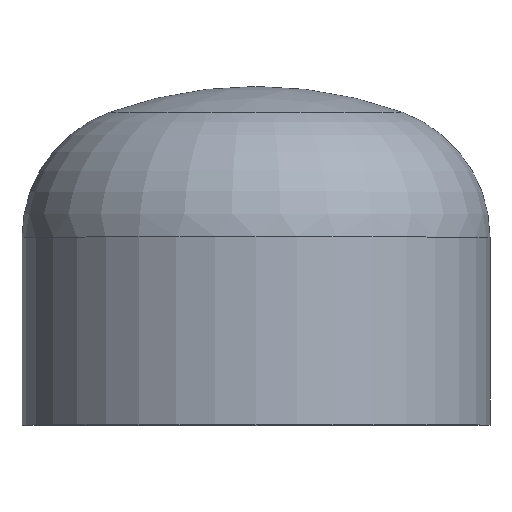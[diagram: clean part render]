
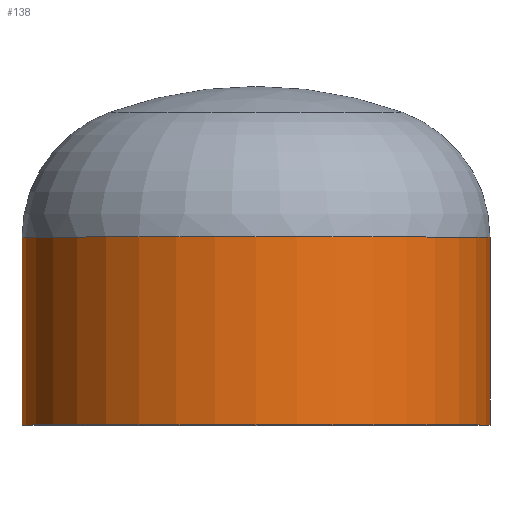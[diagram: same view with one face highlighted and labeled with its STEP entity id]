
A CAD part, top view. The second image highlights one B-rep face of the part: STEP entity #138.
In plain terms, the highlighted cylindrical face has radius 161.95 mm (diameter 323.9 mm), a partial arc.
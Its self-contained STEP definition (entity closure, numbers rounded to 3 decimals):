
#9 = ORIENTED_EDGE ( 'NONE', *, *, #131, .T. ) ;
#46 = VERTEX_POINT ( 'NONE', #286 ) ;
#47 = AXIS2_PLACEMENT_3D ( 'NONE', #225, #358, #169 ) ;
#48 = ORIENTED_EDGE ( 'NONE', *, *, #331, .T. ) ;
#59 = ORIENTED_EDGE ( 'NONE', *, *, #116, .F. ) ;
#74 = LINE ( 'NONE', #118, #172 ) ;
#80 = VERTEX_POINT ( 'NONE', #248 ) ;
#99 = EDGE_LOOP ( 'NONE', ( #9, #48, #209, #59 ) ) ;
#103 = AXIS2_PLACEMENT_3D ( 'NONE', #341, #327, #338 ) ;
#108 = AXIS2_PLACEMENT_3D ( 'NONE', #339, #345, #344 ) ;
#109 = VERTEX_POINT ( 'NONE', #238 ) ;
#116 = EDGE_CURVE ( 'NONE', #46, #251, #289, .T. ) ;
#118 = CARTESIAN_POINT ( 'NONE',  ( -161.95, 0., 0. ) ) ;
#131 = EDGE_CURVE ( 'NONE', #46, #109, #160, .T. ) ;
#138 = ADVANCED_FACE ( 'NONE', ( #361 ), #222, .T. ) ;
#160 = CIRCLE ( 'NONE', #108, 161.95 ) ;
#169 = DIRECTION ( 'NONE',  ( 1., 0., 0. ) ) ;
#172 = VECTOR ( 'NONE', #348, 1000. ) ;
#209 = ORIENTED_EDGE ( 'NONE', *, *, #324, .F. ) ;
#222 = CYLINDRICAL_SURFACE ( 'NONE', #103, 161.95 ) ;
#225 = CARTESIAN_POINT ( 'NONE',  ( 0., 0., 0. ) ) ;
#227 = VECTOR ( 'NONE', #237, 1000. ) ;
#237 = DIRECTION ( 'NONE',  ( 0., -1., 0. ) ) ;
#238 = CARTESIAN_POINT ( 'NONE',  ( -161.95, 130., 0. ) ) ;
#248 = CARTESIAN_POINT ( 'NONE',  ( -161.95, 0., 0. ) ) ;
#251 = VERTEX_POINT ( 'NONE', #303 ) ;
#286 = CARTESIAN_POINT ( 'NONE',  ( 161.95, 130., 0. ) ) ;
#289 = LINE ( 'NONE', #391, #227 ) ;
#303 = CARTESIAN_POINT ( 'NONE',  ( 161.95, 0., 0. ) ) ;
#311 = CIRCLE ( 'NONE', #47, 161.95 ) ;
#324 = EDGE_CURVE ( 'NONE', #251, #80, #311, .T. ) ;
#327 = DIRECTION ( 'NONE',  ( 0., -1., 0. ) ) ;
#331 = EDGE_CURVE ( 'NONE', #109, #80, #74, .T. ) ;
#338 = DIRECTION ( 'NONE',  ( 1., 0., 0. ) ) ;
#339 = CARTESIAN_POINT ( 'NONE',  ( 0., 130., 0. ) ) ;
#341 = CARTESIAN_POINT ( 'NONE',  ( 0., 0., 0. ) ) ;
#344 = DIRECTION ( 'NONE',  ( 1., 0., 0. ) ) ;
#345 = DIRECTION ( 'NONE',  ( 0., -1., 0. ) ) ;
#348 = DIRECTION ( 'NONE',  ( 0., -1., 0. ) ) ;
#358 = DIRECTION ( 'NONE',  ( 0., -1., 0. ) ) ;
#361 = FACE_OUTER_BOUND ( 'NONE', #99, .T. ) ;
#391 = CARTESIAN_POINT ( 'NONE',  ( 161.95, 0., 0. ) ) ;
